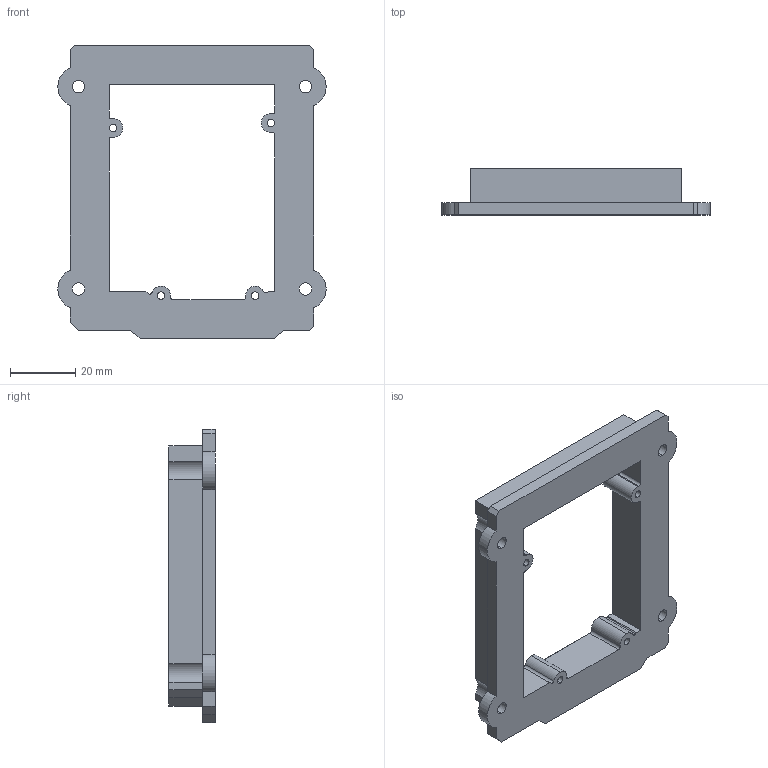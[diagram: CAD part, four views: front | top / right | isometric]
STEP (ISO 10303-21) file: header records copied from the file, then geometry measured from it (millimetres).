
FILE_DESCRIPTION (( 'STEP AP203' ), '1' );
FILE_NAME ('arduino mount.STEP', '2017-10-28T21:19:08', ( '' ), ( '' ), 'SwSTEP 2.0', 'SolidWorks 2016', '' );
FILE_SCHEMA (( 'CONFIG_CONTROL_DESIGN' ));
Length unit declared in the file: inch
Products named in the file (1): arduino mount
Bounding box: 82.55 x 14.22 x 90.17 mm (x, y, z)
Volume: 31326.5 mm3; surface area: 15293.8 mm2
Topology: 1 solids, 1 shells, 95 faces, 273 edges, 182 vertices
Faces by surface type: plane 51, cylinder 44
Entity records: 3250 total; most frequent: DIRECTION 553, CARTESIAN_POINT 551, ORIENTED_EDGE 546, EDGE_CURVE 273, LINE 185, VECTOR 185, AXIS2_PLACEMENT_3D 184, VERTEX_POINT 182
